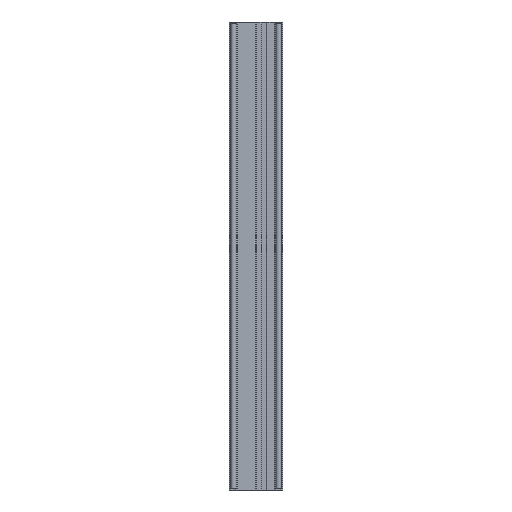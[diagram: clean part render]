
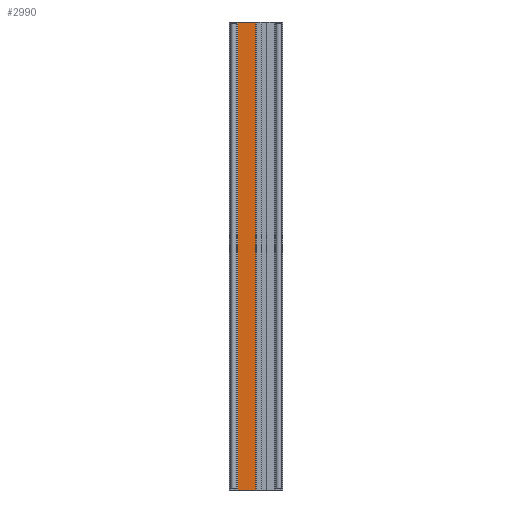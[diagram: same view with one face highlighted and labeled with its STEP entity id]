
A CAD part, left-side view. The second image highlights one B-rep face of the part: STEP entity #2990.
In plain terms, the highlighted planar face has unit normal (-1, 0, 0).
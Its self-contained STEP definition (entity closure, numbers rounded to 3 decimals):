
#2730 = ORIENTED_EDGE ( 'NONE', *, *, #2731, .T. ) ;
#2731 = EDGE_CURVE ( 'NONE', #2997, #2976, #7052, .T. ) ;
#2732 = ORIENTED_EDGE ( 'NONE', *, *, #2975, .T. ) ;
#2973 = VERTEX_POINT ( 'NONE', #7592 ) ;
#2975 = EDGE_CURVE ( 'NONE', #2976, #2973, #7591, .T. ) ;
#2976 = VERTEX_POINT ( 'NONE', #7587 ) ;
#2990 = ADVANCED_FACE ( 'NONE', ( #7563 ), #7562, .T. ) ;
#2991 = EDGE_LOOP ( 'NONE', ( #2992, #2995, #2730, #2732 ) ) ;
#2992 = ORIENTED_EDGE ( 'NONE', *, *, #2993, .F. ) ;
#2993 = EDGE_CURVE ( 'NONE', #2994, #2973, #7557, .T. ) ;
#2994 = VERTEX_POINT ( 'NONE', #7553 ) ;
#2995 = ORIENTED_EDGE ( 'NONE', *, *, #2996, .F. ) ;
#2996 = EDGE_CURVE ( 'NONE', #2997, #2994, #7552, .T. ) ;
#2997 = VERTEX_POINT ( 'NONE', #7548 ) ;
#7049 = DIRECTION ( 'NONE',  ( 0., -1., 0. ) ) ;
#7050 = VECTOR ( 'NONE', #7049, 1000. ) ;
#7051 = CARTESIAN_POINT ( 'NONE',  ( -40., 40.3, -349. ) ) ;
#7052 = LINE ( 'NONE', #7051, #7050 ) ;
#7548 = CARTESIAN_POINT ( 'NONE',  ( -40., 67.222, -349. ) ) ;
#7549 = DIRECTION ( 'NONE',  ( 0., 0., 1. ) ) ;
#7550 = VECTOR ( 'NONE', #7549, 1000. ) ;
#7551 = CARTESIAN_POINT ( 'NONE',  ( -40., 67.222, -349. ) ) ;
#7552 = LINE ( 'NONE', #7551, #7550 ) ;
#7553 = CARTESIAN_POINT ( 'NONE',  ( -40., 67.222, 349. ) ) ;
#7554 = DIRECTION ( 'NONE',  ( 0., -1., 0. ) ) ;
#7555 = VECTOR ( 'NONE', #7554, 1000. ) ;
#7556 = CARTESIAN_POINT ( 'NONE',  ( -40., 40.3, 349. ) ) ;
#7557 = LINE ( 'NONE', #7556, #7555 ) ;
#7558 = DIRECTION ( 'NONE',  ( 0., -1., 0. ) ) ;
#7559 = DIRECTION ( 'NONE',  ( -1., 0., 0. ) ) ;
#7560 = CARTESIAN_POINT ( 'NONE',  ( -40., 40.3, -349. ) ) ;
#7561 = AXIS2_PLACEMENT_3D ( 'NONE', #7560, #7559, #7558 ) ;
#7562 = PLANE ( 'NONE',  #7561 ) ;
#7563 = FACE_OUTER_BOUND ( 'NONE', #2991, .T. ) ;
#7587 = CARTESIAN_POINT ( 'NONE',  ( -40., 40.3, -349. ) ) ;
#7588 = DIRECTION ( 'NONE',  ( 0., 0., 1. ) ) ;
#7589 = VECTOR ( 'NONE', #7588, 1000. ) ;
#7590 = CARTESIAN_POINT ( 'NONE',  ( -40., 40.3, -349. ) ) ;
#7591 = LINE ( 'NONE', #7590, #7589 ) ;
#7592 = CARTESIAN_POINT ( 'NONE',  ( -40., 40.3, 349. ) ) ;
